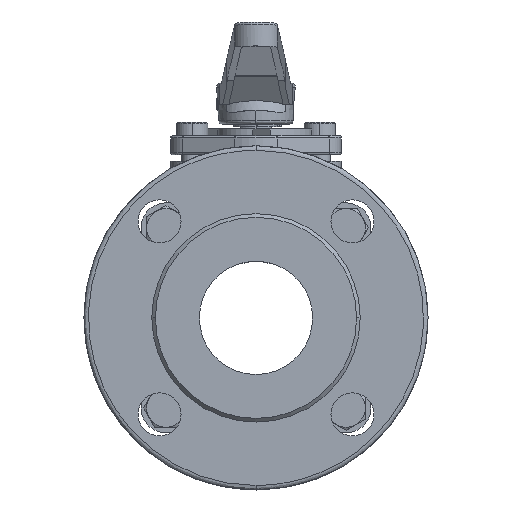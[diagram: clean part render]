
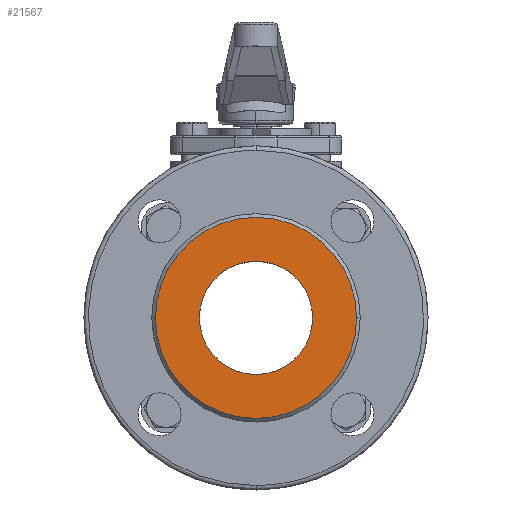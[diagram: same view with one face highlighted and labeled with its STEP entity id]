
A CAD part, left-side view. The second image highlights one B-rep face of the part: STEP entity #21567.
In plain terms, the highlighted planar face has unit normal (-1, 0, 0).
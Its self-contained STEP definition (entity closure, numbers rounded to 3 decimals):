
#16399 = CYLINDRICAL_SURFACE('',#16400,25.);
#16400 = AXIS2_PLACEMENT_3D('',#16401,#16402,#16403);
#16401 = CARTESIAN_POINT('',(-95.1,-55.354,29.853));
#16402 = DIRECTION('',(1.,0.,0.));
#16403 = DIRECTION('',(0.,-1.,0.));
#16506 = CYLINDRICAL_SURFACE('',#16507,25.);
#16507 = AXIS2_PLACEMENT_3D('',#16508,#16509,#16510);
#16508 = CARTESIAN_POINT('',(-95.1,-55.354,29.853));
#16509 = DIRECTION('',(1.,0.,0.));
#16510 = DIRECTION('',(0.,-1.,0.));
#16629 = VERTEX_POINT('',#16630);
#16630 = CARTESIAN_POINT('',(-95.1,-80.354,29.853));
#16677 = VERTEX_POINT('',#16678);
#16678 = CARTESIAN_POINT('',(-95.1,-30.354,29.853));
#16699 = EDGE_CURVE('',#16629,#16677,#16700,.T.);
#16700 = SURFACE_CURVE('',#16701,(#16706,#16713),.PCURVE_S1.);
#16701 = CIRCLE('',#16702,25.);
#16702 = AXIS2_PLACEMENT_3D('',#16703,#16704,#16705);
#16703 = CARTESIAN_POINT('',(-95.1,-55.354,29.853));
#16704 = DIRECTION('',(-1.,0.,0.));
#16705 = DIRECTION('',(0.,-1.,0.));
#16706 = PCURVE('',#16506,#16707);
#16707 = DEFINITIONAL_REPRESENTATION('',(#16708),#16712);
#16708 = LINE('',#16709,#16710);
#16709 = CARTESIAN_POINT('',(6.283,0.));
#16710 = VECTOR('',#16711,1.);
#16711 = DIRECTION('',(-1.,0.));
#16712 = ( GEOMETRIC_REPRESENTATION_CONTEXT(2) 
PARAMETRIC_REPRESENTATION_CONTEXT() REPRESENTATION_CONTEXT('2D SPACE',''
  ) );
#16713 = PCURVE('',#16714,#16719);
#16714 = PLANE('',#16715);
#16715 = AXIS2_PLACEMENT_3D('',#16716,#16717,#16718);
#16716 = CARTESIAN_POINT('',(-95.1,-100.286,-15.08));
#16717 = DIRECTION('',(-1.,0.,0.));
#16718 = DIRECTION('',(0.,0.,1.));
#16719 = DEFINITIONAL_REPRESENTATION('',(#16720),#16724);
#16720 = CIRCLE('',#16721,25.);
#16721 = AXIS2_PLACEMENT_2D('',#16722,#16723);
#16722 = CARTESIAN_POINT('',(44.933,44.933));
#16723 = DIRECTION('',(0.,-1.));
#16724 = ( GEOMETRIC_REPRESENTATION_CONTEXT(2) 
PARAMETRIC_REPRESENTATION_CONTEXT() REPRESENTATION_CONTEXT('2D SPACE',''
  ) );
#16847 = EDGE_CURVE('',#16848,#16850,#16852,.T.);
#16848 = VERTEX_POINT('',#16849);
#16849 = CARTESIAN_POINT('',(-95.1,-10.954,29.853));
#16850 = VERTEX_POINT('',#16851);
#16851 = CARTESIAN_POINT('',(-95.1,-99.754,29.853));
#16852 = SURFACE_CURVE('',#16853,(#16858,#16870),.PCURVE_S1.);
#16853 = CIRCLE('',#16854,44.4);
#16854 = AXIS2_PLACEMENT_3D('',#16855,#16856,#16857);
#16855 = CARTESIAN_POINT('',(-95.1,-55.354,29.853));
#16856 = DIRECTION('',(-1.,0.,0.));
#16857 = DIRECTION('',(0.,-1.,0.));
#16858 = PCURVE('',#16859,#16864);
#16859 = CONICAL_SURFACE('',#16860,44.4,0.785);
#16860 = AXIS2_PLACEMENT_3D('',#16861,#16862,#16863);
#16861 = CARTESIAN_POINT('',(-95.1,-55.354,29.853));
#16862 = DIRECTION('',(1.,0.,0.));
#16863 = DIRECTION('',(0.,-1.,0.));
#16864 = DEFINITIONAL_REPRESENTATION('',(#16865),#16869);
#16865 = LINE('',#16866,#16867);
#16866 = CARTESIAN_POINT('',(6.283,0.));
#16867 = VECTOR('',#16868,1.);
#16868 = DIRECTION('',(-1.,0.));
#16869 = ( GEOMETRIC_REPRESENTATION_CONTEXT(2) 
PARAMETRIC_REPRESENTATION_CONTEXT() REPRESENTATION_CONTEXT('2D SPACE',''
  ) );
#16870 = PCURVE('',#16714,#16871);
#16871 = DEFINITIONAL_REPRESENTATION('',(#16872),#16876);
#16872 = CIRCLE('',#16873,44.4);
#16873 = AXIS2_PLACEMENT_2D('',#16874,#16875);
#16874 = CARTESIAN_POINT('',(44.933,44.933));
#16875 = DIRECTION('',(0.,-1.));
#16876 = ( GEOMETRIC_REPRESENTATION_CONTEXT(2) 
PARAMETRIC_REPRESENTATION_CONTEXT() REPRESENTATION_CONTEXT('2D SPACE',''
  ) );
#16894 = CONICAL_SURFACE('',#16895,44.4,0.785);
#16895 = AXIS2_PLACEMENT_3D('',#16896,#16897,#16898);
#16896 = CARTESIAN_POINT('',(-95.1,-55.354,29.853));
#16897 = DIRECTION('',(1.,0.,0.));
#16898 = DIRECTION('',(0.,-1.,0.));
#21515 = EDGE_CURVE('',#16850,#16848,#21516,.T.);
#21516 = SURFACE_CURVE('',#21517,(#21522,#21529),.PCURVE_S1.);
#21517 = CIRCLE('',#21518,44.4);
#21518 = AXIS2_PLACEMENT_3D('',#21519,#21520,#21521);
#21519 = CARTESIAN_POINT('',(-95.1,-55.354,29.853));
#21520 = DIRECTION('',(-1.,0.,0.));
#21521 = DIRECTION('',(0.,-1.,0.));
#21522 = PCURVE('',#16894,#21523);
#21523 = DEFINITIONAL_REPRESENTATION('',(#21524),#21528);
#21524 = LINE('',#21525,#21526);
#21525 = CARTESIAN_POINT('',(6.283,0.));
#21526 = VECTOR('',#21527,1.);
#21527 = DIRECTION('',(-1.,0.));
#21528 = ( GEOMETRIC_REPRESENTATION_CONTEXT(2) 
PARAMETRIC_REPRESENTATION_CONTEXT() REPRESENTATION_CONTEXT('2D SPACE',''
  ) );
#21529 = PCURVE('',#16714,#21530);
#21530 = DEFINITIONAL_REPRESENTATION('',(#21531),#21535);
#21531 = CIRCLE('',#21532,44.4);
#21532 = AXIS2_PLACEMENT_2D('',#21533,#21534);
#21533 = CARTESIAN_POINT('',(44.933,44.933));
#21534 = DIRECTION('',(0.,-1.));
#21535 = ( GEOMETRIC_REPRESENTATION_CONTEXT(2) 
PARAMETRIC_REPRESENTATION_CONTEXT() REPRESENTATION_CONTEXT('2D SPACE',''
  ) );
#21567 = ADVANCED_FACE('',(#21568,#21593),#16714,.T.);
#21568 = FACE_BOUND('',#21569,.T.);
#21569 = EDGE_LOOP('',(#21570,#21571));
#21570 = ORIENTED_EDGE('',*,*,#16699,.F.);
#21571 = ORIENTED_EDGE('',*,*,#21572,.F.);
#21572 = EDGE_CURVE('',#16677,#16629,#21573,.T.);
#21573 = SURFACE_CURVE('',#21574,(#21579,#21586),.PCURVE_S1.);
#21574 = CIRCLE('',#21575,25.);
#21575 = AXIS2_PLACEMENT_3D('',#21576,#21577,#21578);
#21576 = CARTESIAN_POINT('',(-95.1,-55.354,29.853));
#21577 = DIRECTION('',(-1.,0.,0.));
#21578 = DIRECTION('',(0.,-1.,0.));
#21579 = PCURVE('',#16714,#21580);
#21580 = DEFINITIONAL_REPRESENTATION('',(#21581),#21585);
#21581 = CIRCLE('',#21582,25.);
#21582 = AXIS2_PLACEMENT_2D('',#21583,#21584);
#21583 = CARTESIAN_POINT('',(44.933,44.933));
#21584 = DIRECTION('',(0.,-1.));
#21585 = ( GEOMETRIC_REPRESENTATION_CONTEXT(2) 
PARAMETRIC_REPRESENTATION_CONTEXT() REPRESENTATION_CONTEXT('2D SPACE',''
  ) );
#21586 = PCURVE('',#16399,#21587);
#21587 = DEFINITIONAL_REPRESENTATION('',(#21588),#21592);
#21588 = LINE('',#21589,#21590);
#21589 = CARTESIAN_POINT('',(6.283,0.));
#21590 = VECTOR('',#21591,1.);
#21591 = DIRECTION('',(-1.,0.));
#21592 = ( GEOMETRIC_REPRESENTATION_CONTEXT(2) 
PARAMETRIC_REPRESENTATION_CONTEXT() REPRESENTATION_CONTEXT('2D SPACE',''
  ) );
#21593 = FACE_BOUND('',#21594,.T.);
#21594 = EDGE_LOOP('',(#21595,#21596));
#21595 = ORIENTED_EDGE('',*,*,#21515,.T.);
#21596 = ORIENTED_EDGE('',*,*,#16847,.T.);
